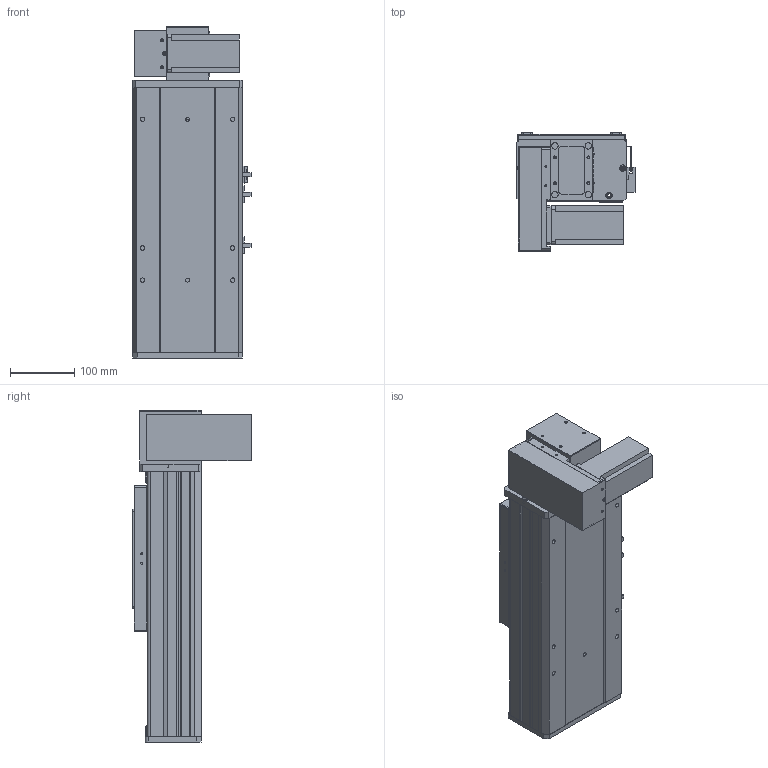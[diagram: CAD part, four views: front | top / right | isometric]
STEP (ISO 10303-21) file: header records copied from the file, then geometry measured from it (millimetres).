
FILE_DESCRIPTION (( 'STEP AP203' ), '1' );
FILE_NAME ('Y170CB-D105-S100-BM-P400W.STEP', '2020-02-20T06:05:25', ( '微软用户' ), ( '微软中国' ), 'SwSTEP 2.0', 'SolidWorks 2017', '' );
FILE_SCHEMA (( 'CONFIG_CONTROL_DESIGN' ));
Length unit declared in the file: millimetre
Products named in the file (18): Y170CB-D105-S100-BM-P400W; 0C--雄赽釱俋欶-170; 0B-萇儂楊擘啣; 70CB-詩湍--; san松下电机400不带刹车----; Y100-135俋离換覜ん--; 70CB-掛极-; Y170CB-陔俋离換覜結え---; --70CB --喘謫眊楊擘啣-; Y1埴倛裔; 70CB-耜裔啣-; 17B-耜蚾蟀諉啣----; 70C--詩湍揤踡え-; 00B-俋欶BM--163; 70CB--耜裔; 70B喘謫眊----; 70C-雄赽釱-奻-; B-源倛裔啣
Assembly tree (21 placements, depth 2):
  Y170CB-D105-S100-BM-P400W
    B-源倛裔啣
    0B-萇儂楊擘啣
    san松下电机400不带刹车----
    70CB-掛极-
    --70CB --喘謫眊楊擘啣-
    70CB-耜裔啣-  x2
    70C--詩湍揤踡え-  x2
    70CB--耜裔
    70C-雄赽釱-奻-
    0C--雄赽釱俋欶-170
    70CB-詩湍--
    Y100-135俋离換覜ん--  x3
    Y170CB-陔俋离換覜結え---
    Y1埴倛裔
    17B-耜蚾蟀諉啣----
    00B-俋欶BM--163
    70B喘謫眊----
Bounding box: 183.5 x 184 x 516 mm (x, y, z)
Volume: 2995309.7 mm3; surface area: 1053745.4 mm2
Topology: 21 solids, 21 shells, 975 faces, 2597 edges, 1722 vertices
Faces by surface type: cylinder 489, plane 462, cone 24
Entity records: 30868 total; most frequent: CARTESIAN_POINT 5616, DIRECTION 5018, ORIENTED_EDGE 4676, EDGE_CURVE 2338, AXIS2_PLACEMENT_3D 1828, VERTEX_POINT 1552, VECTOR 1362, LINE 1362
